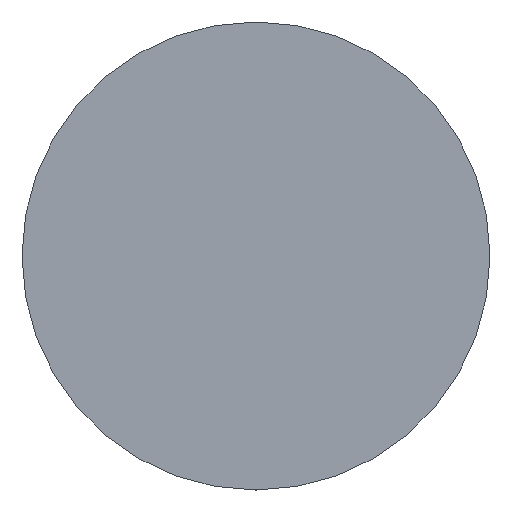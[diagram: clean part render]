
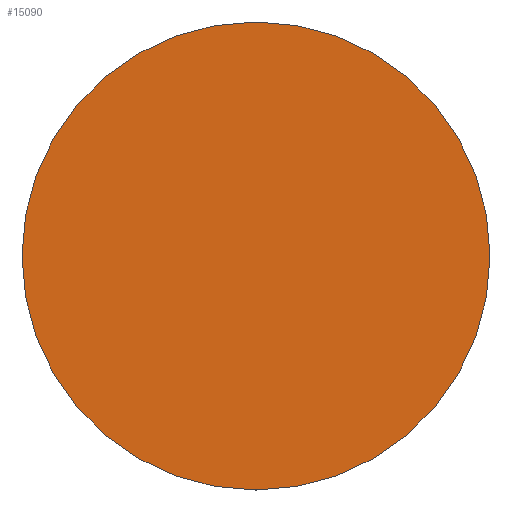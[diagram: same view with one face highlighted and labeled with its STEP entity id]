
A CAD part, top view. The second image highlights one B-rep face of the part: STEP entity #15090.
In plain terms, the highlighted planar face has unit normal (0, 0, 1).
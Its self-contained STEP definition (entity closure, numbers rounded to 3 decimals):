
#15015=CARTESIAN_POINT('',(0.,0.,20.));
#15016=DIRECTION('',(1.,0.,0.));
#15017=DIRECTION('',(0.,0.,1.));
#15018=AXIS2_PLACEMENT_3D('',#15015,#15017,#15016);
#15019=PLANE('',#15018);
#15020=CARTESIAN_POINT('',(-0.5,-350.,20.));
#15021=VERTEX_POINT('',#15020);
#15022=CARTESIAN_POINT('',(0.5,-350.,20.));
#15023=VERTEX_POINT('',#15022);
#15024=CARTESIAN_POINT('',(-0.5,-350.,20.));
#15025=DIRECTION('',(1.,0.,0.));
#15026=VECTOR('',#15025,1.);
#15027=LINE('',#15024,#15026);
#15028=EDGE_CURVE('',#15021,#15023,#15027,.T.);
#15029=ORIENTED_EDGE('E9',*,*,#15028,.T.);
#15030=CARTESIAN_POINT('',(350.,-0.5,20.));
#15031=VERTEX_POINT('',#15030);
#15032=CARTESIAN_POINT('',(0.5,-0.5,20.));
#15033=DIRECTION('',(0.,-1.,0.));
#15034=DIRECTION('',(0.,-0.,1.));
#15035=AXIS2_PLACEMENT_3D('',#15032,#15034,#15033);
#15036=CIRCLE('',#15035,349.5);
#15037=EDGE_CURVE('',#15023,#15031,#15036,.T.);
#15038=ORIENTED_EDGE('E10',*,*,#15037,.T.);
#15039=CARTESIAN_POINT('',(350.,0.5,20.));
#15040=VERTEX_POINT('',#15039);
#15041=CARTESIAN_POINT('',(350.,-0.5,20.));
#15042=DIRECTION('',(0.,1.,0.));
#15043=VECTOR('',#15042,1.);
#15044=LINE('',#15041,#15043);
#15045=EDGE_CURVE('',#15031,#15040,#15044,.T.);
#15046=ORIENTED_EDGE('E11',*,*,#15045,.T.);
#15047=CARTESIAN_POINT('',(0.5,350.,20.));
#15048=VERTEX_POINT('',#15047);
#15049=CARTESIAN_POINT('',(0.5,0.5,20.));
#15050=DIRECTION('',(1.,0.,0.));
#15051=DIRECTION('',(0.,0.,1.));
#15052=AXIS2_PLACEMENT_3D('',#15049,#15051,#15050);
#15053=CIRCLE('',#15052,349.5);
#15054=EDGE_CURVE('',#15040,#15048,#15053,.T.);
#15055=ORIENTED_EDGE('E12',*,*,#15054,.T.);
#15056=CARTESIAN_POINT('',(-0.5,350.,20.));
#15057=VERTEX_POINT('',#15056);
#15058=CARTESIAN_POINT('',(0.5,350.,20.));
#15059=DIRECTION('',(-1.,0.,0.));
#15060=VECTOR('',#15059,1.);
#15061=LINE('',#15058,#15060);
#15062=EDGE_CURVE('',#15048,#15057,#15061,.T.);
#15063=ORIENTED_EDGE('E13',*,*,#15062,.T.);
#15064=CARTESIAN_POINT('',(-350.,0.5,20.));
#15065=VERTEX_POINT('',#15064);
#15066=CARTESIAN_POINT('',(-0.5,0.5,20.));
#15067=DIRECTION('',(0.,1.,0.));
#15068=DIRECTION('',(0.,0.,1.));
#15069=AXIS2_PLACEMENT_3D('',#15066,#15068,#15067);
#15070=CIRCLE('',#15069,349.5);
#15071=EDGE_CURVE('',#15057,#15065,#15070,.T.);
#15072=ORIENTED_EDGE('E14',*,*,#15071,.T.);
#15073=CARTESIAN_POINT('',(-350.,-0.5,20.));
#15074=VERTEX_POINT('',#15073);
#15075=CARTESIAN_POINT('',(-350.,0.5,20.));
#15076=DIRECTION('',(0.,-1.,0.));
#15077=VECTOR('',#15076,1.);
#15078=LINE('',#15075,#15077);
#15079=EDGE_CURVE('',#15065,#15074,#15078,.T.);
#15080=ORIENTED_EDGE('E15',*,*,#15079,.T.);
#15081=CARTESIAN_POINT('',(-0.5,-0.5,20.));
#15082=DIRECTION('',(-1.,0.,0.));
#15083=DIRECTION('',(-0.,0.,1.));
#15084=AXIS2_PLACEMENT_3D('',#15081,#15083,#15082);
#15085=CIRCLE('',#15084,349.5);
#15086=EDGE_CURVE('',#15074,#15021,#15085,.T.);
#15087=ORIENTED_EDGE('E16',*,*,#15086,.T.);
#15088=EDGE_LOOP('',(#15029,#15038,#15046,#15055,#15063,#15072,#15080,#15087));
#15089=FACE_OUTER_BOUND('',#15088,.T.);
#15090=ADVANCED_FACE('F2',(#15089),#15019,.T.);
